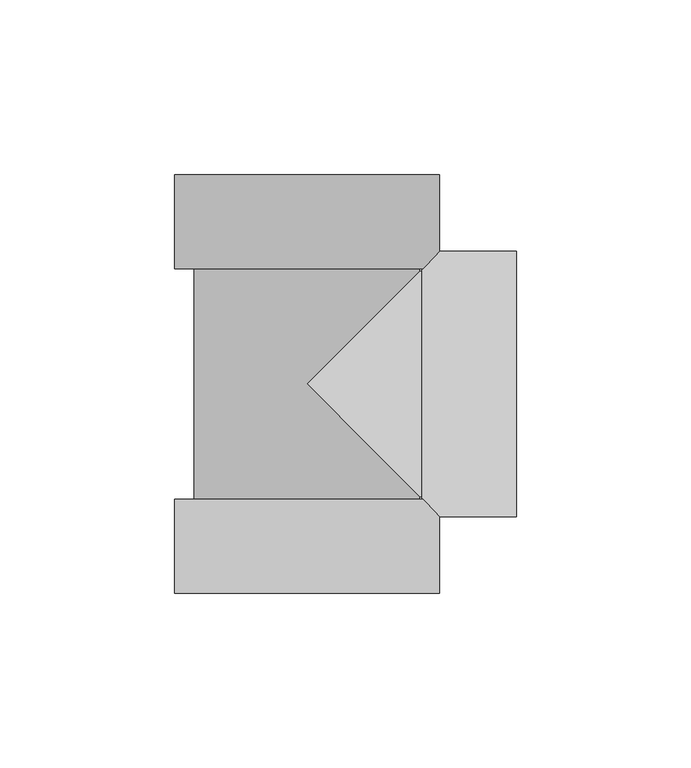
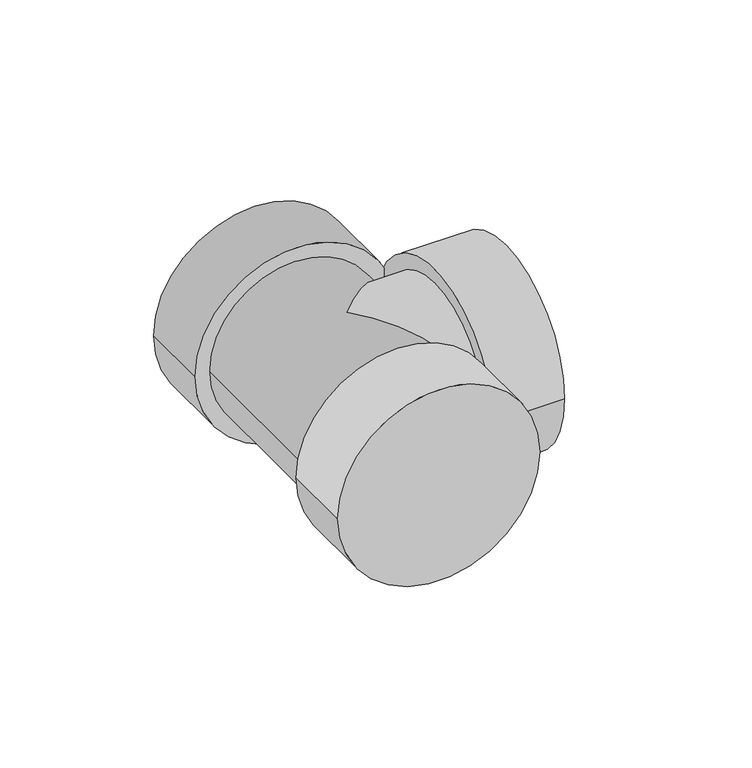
"""IFC4 building model written with IfcOpenShell, lengths in millimetres: pipe fitting geometry, 01011003 : Tê a 90º."""

from ifc_helpers import new_model, si_unit, point, frame, origin, origin_2d, place, context, project, spatial, circle_curve, ellipse_curve, trimmed, segment, composite_curve, outline, extrude, source, transform, mapped, element, save
from ifc_brep_helpers import plane_surface, cylinder_surface, advanced_brep


def pipe_fitting_082003e1(model_context):
    return source(origin(), model_context, "Body", "SolidModel", [
        advanced_brep(
        [(-32.3, 35.0, 0.0), (32.3, 35.0, 0.0), (-32.3, -35.0, 0.0), (32.3, -35.0, 0.0), (32.3, -32.3, 0.0), (0.0, 0.0, 32.3), (32.3, 32.3, 0.0), (0.0, 0.0, -32.3), (35.0, 32.3, 0.0), (35.0, -32.3, 0.0)],
        [
            (0, 1, circle_curve(frame((0.0, 35.0, 0.0), z_axis=(0.0, 1.0, 0.0), x_axis=(1.0, 0.0, 0.0)), 32.3)),
            (1, 0, circle_curve(frame((0.0, 35.0, 0.0), z_axis=(0.0, 1.0, 0.0), x_axis=(1.0, 0.0, 0.0)), 32.3)),
            (2, 3, circle_curve(frame((0.0, -35.0, 0.0), z_axis=(0.0, -1.0, 0.0), x_axis=(1.0, 0.0, 0.0)), 32.3)),
            (3, 2, circle_curve(frame((0.0, -35.0, 0.0), z_axis=(0.0, -1.0, 0.0), x_axis=(1.0, 0.0, 0.0)), 32.3)),
            (0, 2),
            (3, 4),
            (4, 5, ellipse_curve(frame((0.0, 0.0, 0.0), z_axis=(-0.7071067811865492, -0.7071067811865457, 0.0), x_axis=(-0.7071067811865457, 0.7071067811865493, 0.0)), 45.6790981, 32.3)),
            (5, 6, ellipse_curve(frame((0.0, 0.0, 0.0), z_axis=(-0.7071067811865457, 0.7071067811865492, 0.0), x_axis=(0.7071067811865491, 0.7071067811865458, 0.0)), 45.6790981, 32.3)),
            (6, 1),
            (6, 7, ellipse_curve(frame((0.0, 0.0, 0.0), z_axis=(-0.7071067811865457, 0.7071067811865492, 0.0), x_axis=(0.7071067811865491, 0.7071067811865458, 0.0)), 45.6790981, 32.3)),
            (7, 4, ellipse_curve(frame((0.0, 0.0, 0.0), z_axis=(-0.7071067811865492, -0.7071067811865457, 0.0), x_axis=(-0.7071067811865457, 0.7071067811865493, 0.0)), 45.6790981, 32.3)),
            (8, 9, circle_curve(frame((35.0, 0.0, 0.0), z_axis=(1.0, 0.0, 0.0), x_axis=(0.0, -1.0, 0.0)), 32.3)),
            (9, 8, circle_curve(frame((35.0, 0.0, 0.0), z_axis=(1.0, 0.0, 0.0), x_axis=(0.0, -1.0, 0.0)), 32.3)),
            (8, 6),
            (4, 9),
        ],
        [
            plane_surface(frame((0.0, 35.0, 0.0), z_axis=(0.0, 1.0, 0.0), x_axis=(0.0, 0.0, 1.0))),
            plane_surface(frame((0.0, -35.0, 0.0), z_axis=(0.0, -1.0, 0.0), x_axis=(0.0, 0.0, 1.0))),
            cylinder_surface(frame((0.0, 35.0, 0.0), z_axis=(0.0, 1.0, 0.0), x_axis=(1.0, 0.0, 0.0)), 32.3),
            plane_surface(frame((35.0, 0.0, 0.0), z_axis=(1.0, 0.0, 0.0), x_axis=(0.0, 0.0, 1.0))),
            cylinder_surface(frame((35.0, 0.0, 0.0), z_axis=(1.0, 0.0, 0.0), x_axis=(0.0, -1.0, 0.0)), 32.3),
        ],
        [
            (0, [[1, 2]]),
            (1, [[3, 4]]),
            (2, [[-1, 5, -4, 6, 7, 8, 9]]),
            (2, [[-2, -9, 10, 11, -6, -3, -5]]),
            (3, [[12, 13]]),
            (4, [[-12, 14, -8, -7, 15]]),
            (4, [[-13, -15, -11, -10, -14]]),
        ],
    ),
        extrude(outline(composite_curve([segment(trimmed(circle_curve(origin_2d(), 38.0), [point((0.0, -38.0))], [point((0.0, 38.0))], False, "CARTESIAN"), True, "CONTINUOUS"), segment(trimmed(circle_curve(origin_2d(), 38.0), [point((0.0, 38.0))], [point((0.0, -38.0))], False, "CARTESIAN"), True, "CONTINUOUS")], self_intersect=False)), frame((0.0, 33.0, 0.0), z_axis=(0.0, 1.0, 0.0), x_axis=(0.0, 0.0, 1.0)), (0.0, 0.0, 1.0), 27.0),
        extrude(outline(composite_curve([segment(trimmed(circle_curve(origin_2d(), 38.0), [point((0.0, 38.0))], [point((0.0, -38.0))], False, "CARTESIAN"), True, "CONTINUOUS"), segment(trimmed(circle_curve(origin_2d(), 38.0), [point((0.0, -38.0))], [point((0.0, 38.0))], False, "CARTESIAN"), True, "CONTINUOUS")], self_intersect=False)), frame((0.0, -60.0, 0.0), z_axis=(0.0, 1.0, 0.0), x_axis=(0.0, 0.0, 1.0)), (0.0, 0.0, 1.0), 27.0),
        extrude(outline(composite_curve([segment(trimmed(circle_curve(origin_2d(), 38.0), [point((38.0, 0.0))], [point((-38.0, 0.0))], False, "CARTESIAN"), True, "CONTINUOUS"), segment(trimmed(circle_curve(origin_2d(), 38.0), [point((-38.0, 0.0))], [point((38.0, 0.0))], False, "CARTESIAN"), True, "CONTINUOUS")], self_intersect=False)), frame((33.0, 0.0, 0.0), z_axis=(1.0, 0.0, 0.0), x_axis=(0.0, 1.0, 0.0)), (0.0, 0.0, 1.0), 27.0),
    ])


if __name__ == "__main__":
    model = new_model("IFC4")
    model_context = context("Model", 3, world=origin())
    ifc_project = project(units=[si_unit("LENGTHUNIT", "METRE", prefix="MILLI")], contexts=[model_context])
    site = spatial("IfcSite", under=ifc_project)
    building = spatial("IfcBuilding", under=site)
    placement = place(None, origin())
    pipe_fitting_shape = pipe_fitting_082003e1(model_context)
    element("IfcPipeFitting", 1, ObjectType="01011003 : Tê a 90º", at=placement, inside=building, context=model_context, shape_type="MappedRepresentation", body=[
        mapped(pipe_fitting_shape, transform((0.0, 0.0, 0.0), x_axis=(1.0, 0.0, 0.0), y_axis=(0.0, 1.0, 0.0), z_axis=(0.0, 0.0, 1.0))),
    ])
    save(model, "model.ifc")
